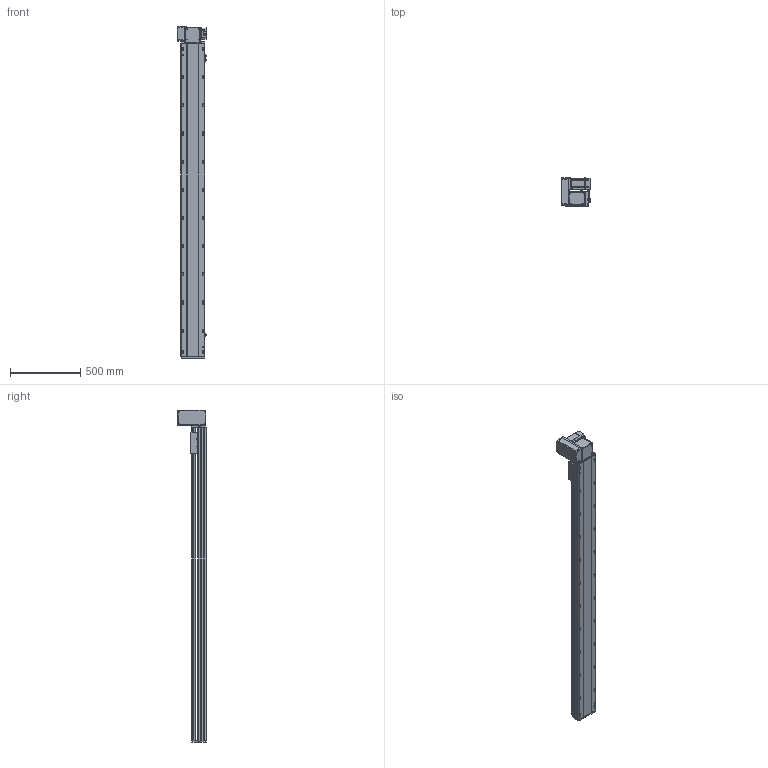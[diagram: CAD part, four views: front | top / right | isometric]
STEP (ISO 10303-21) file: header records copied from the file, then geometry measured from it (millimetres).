
FILE_DESCRIPTION (( 'STEP AP214' ), '1' );
FILE_NAME ('RTB17S-XX-1950-LW-M75-C4.STEP', '2025-12-12T01:10:30', ( '' ), ( '' ), 'SwSTEP 2.0', 'SolidWorks 2018', '' );
FILE_SCHEMA (( 'AUTOMOTIVE_DESIGN' ));
Length unit declared in the file: millimetre
Products named in the file (15): RTB17S-L-001-耜醱啣^RTB17S-XX-XX-LW-M75-C4; RTH13-BL-012覜茼え俋离^RTB17S-賑釱_RTB17S-XX-XX-LW-M75-C4; RTB22S-GY-005P^RTB17S-LW-々湍釱蚾饜-750W_RTB17S-XX-XX-LW-M75-C4; RTB17S-L-014-T20-P75--々湍釱^RTB17S-LW-々湍釱蚾饜-750W_RTB17S-XX-XX-LW-M75-C4; RTB22S-GY-008-M75--萇儂啣^RTB17S-LW-々湍釱蚾饜-750W_RTB17S-XX-XX-LW-M75-C4; RTB17S-賑釱^RTB17S-XX-XX-LW-M75-C4; 750W萇儂^RTB17S-XX-XX-LW-M75-C4; RTB17S-XX-1950-LW-M75-C4; RTB17-R-011菁釱^RTB17S-XX-XX-LW-M75-C4; RTB17S-L-007奻裔^RTB17S-XX-XX-LW-M75-C4; EE672^RTB17S-XX-XX-LW-M75-C4; RTB17S-L-004-賑釱^RTB17S-賑釱_RTB17S-XX-XX-LW-M75-C4; RTB22S-GY-017P^RTB17S-LW-々湍釱蚾饜-750W_RTB17S-XX-XX-LW-M75-C4; RTB22S-GY-018P^RTB17S-LW-々湍釱蚾饜-750W_RTB17S-XX-XX-LW-M75-C4; RTB17S-LW-々湍釱蚾饜-750W^RTB17S-XX-XX-LW-M75-C4
Assembly tree (17 placements, depth 3):
  RTB17S-XX-1950-LW-M75-C4
    RTB17-R-011菁釱^RTB17S-XX-XX-LW-M75-C4
    EE672^RTB17S-XX-XX-LW-M75-C4  x3
    RTB17S-L-001-耜醱啣^RTB17S-XX-XX-LW-M75-C4
    RTB17S-賑釱^RTB17S-XX-XX-LW-M75-C4
      RTB17S-L-004-賑釱^RTB17S-賑釱_RTB17S-XX-XX-LW-M75-C4
      RTH13-BL-012覜茼え俋离^RTB17S-賑釱_RTB17S-XX-XX-LW-M75-C4
    RTB17S-L-007奻裔^RTB17S-XX-XX-LW-M75-C4
    750W萇儂^RTB17S-XX-XX-LW-M75-C4
    RTB17S-LW-々湍釱蚾饜-750W^RTB17S-XX-XX-LW-M75-C4
      RTB17S-L-014-T20-P75--々湍釱^RTB17S-LW-々湍釱蚾饜-750W_RTB17S-XX-XX-LW-M75-C4
      RTB22S-GY-005P^RTB17S-LW-々湍釱蚾饜-750W_RTB17S-XX-XX-LW-M75-C4
      RTB22S-GY-017P^RTB17S-LW-々湍釱蚾饜-750W_RTB17S-XX-XX-LW-M75-C4  x2
      RTB22S-GY-008-M75--萇儂啣^RTB17S-LW-々湍釱蚾饜-750W_RTB17S-XX-XX-LW-M75-C4
      RTB22S-GY-018P^RTB17S-LW-々湍釱蚾饜-750W_RTB17S-XX-XX-LW-M75-C4
Bounding box: 210.4 x 201.5 x 2357.5 mm (x, y, z)
Volume: 18139740 mm3; surface area: 3237831.8 mm2
Topology: 17 solids, 17 shells, 2169 faces, 6052 edges, 3914 vertices
Faces by surface type: plane 980, cylinder 773, bspline 294, cone 110, sphere 8, torus 4
Entity records: 61942 total; most frequent: CARTESIAN_POINT 18316, ORIENTED_EDGE 8948, DIRECTION 8312, EDGE_CURVE 4474, AXIS2_PLACEMENT_3D 2934, VERTEX_POINT 2918, VECTOR 2444, LINE 2444
